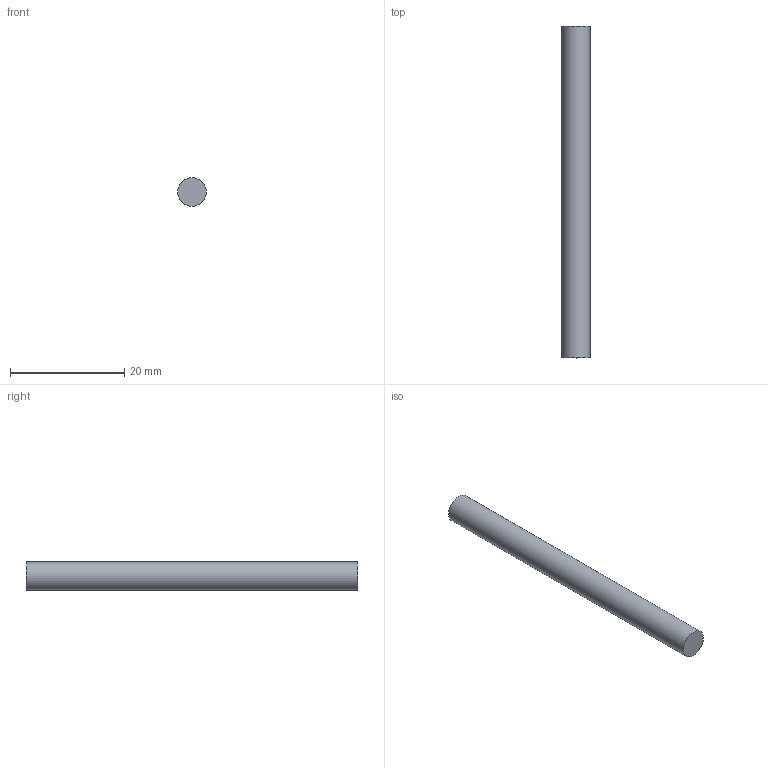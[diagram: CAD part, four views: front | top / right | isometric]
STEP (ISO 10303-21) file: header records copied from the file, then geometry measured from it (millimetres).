
FILE_DESCRIPTION(('Open CASCADE Model'),'2;1');
FILE_NAME('Open CASCADE Shape Model','2026-10-20T13:19:55',('Author'),( 'Open CASCADE'),'Open CASCADE STEP processor 7.9','Open CASCADE 7.9' ,'Unknown');
FILE_SCHEMA(('AUTOMOTIVE_DESIGN { 1 0 10303 214 1 1 1 1 }'));
Length unit declared in the file: millimetre
Products named in the file (1): Open CASCADE STEP translator 7.9 86
Bounding box: 5 x 58 x 5 mm (x, y, z)
Volume: 1138.8 mm3; surface area: 950.3 mm2
Topology: 1 solids, 1 shells, 3 faces, 3 edges, 2 vertices
Faces by surface type: plane 2, cylinder 1
Full cylindrical faces by diameter (mm): 5 x1
Entity records: 108 total; most frequent: DIRECTION 19, CARTESIAN_POINT 15, AXIS2_PLACEMENT_3D 6, ORIENTED_EDGE 6, PCURVE 6, DEFINITIONAL_REPRESENTATION 6, LINE 5, VECTOR 5
